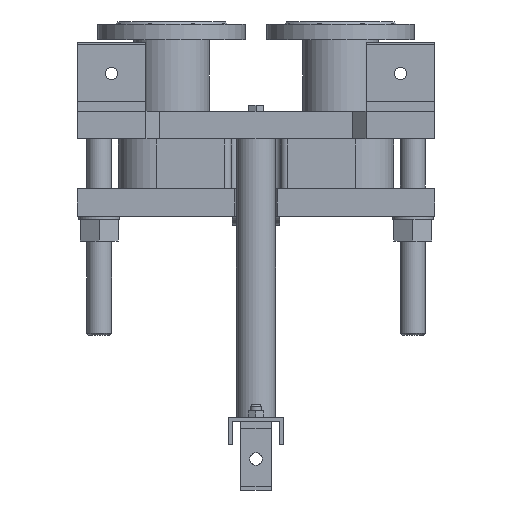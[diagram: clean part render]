
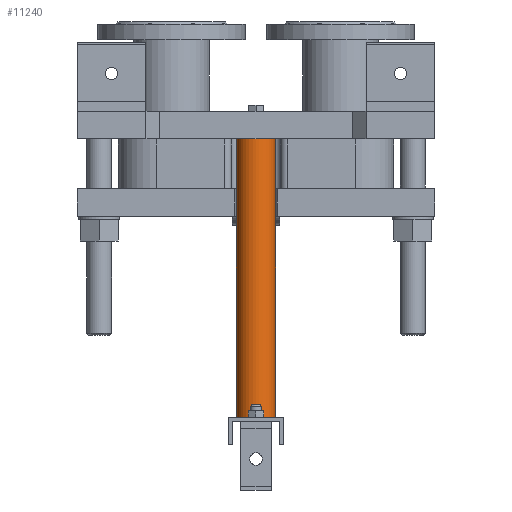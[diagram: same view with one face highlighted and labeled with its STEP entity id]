
A CAD part, front view. The second image highlights one B-rep face of the part: STEP entity #11240.
In plain terms, the highlighted cylindrical face has radius 28.5 mm (diameter 57 mm), a full revolution.
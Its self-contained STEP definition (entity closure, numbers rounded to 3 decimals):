
#781=LINE('',#22043,#1754);
#1754=VECTOR('',#14569,28.5);
#2333=CYLINDRICAL_SURFACE('',#12263,28.5);
#2995=FACE_OUTER_BOUND('',#3777,.T.);
#3777=EDGE_LOOP('',(#9013,#9014,#9015,#9016));
#4462=CIRCLE('',#12264,28.5);
#4463=CIRCLE('',#12265,28.5);
#5286=VERTEX_POINT('',#22040);
#5287=VERTEX_POINT('',#22042);
#6596=EDGE_CURVE('',#5286,#5286,#4462,.T.);
#6597=EDGE_CURVE('',#5286,#5287,#781,.T.);
#6598=EDGE_CURVE('',#5287,#5287,#4463,.T.);
#9013=ORIENTED_EDGE('',*,*,#6596,.F.);
#9014=ORIENTED_EDGE('',*,*,#6597,.T.);
#9015=ORIENTED_EDGE('',*,*,#6598,.T.);
#9016=ORIENTED_EDGE('',*,*,#6597,.F.);
#11240=ADVANCED_FACE('',(#2995),#2333,.T.);
#12263=AXIS2_PLACEMENT_3D('',#22039,#14565,#14566);
#12264=AXIS2_PLACEMENT_3D('',#22041,#14567,#14568);
#12265=AXIS2_PLACEMENT_3D('',#22044,#14570,#14571);
#14565=DIRECTION('center_axis',(0.,0.,
-1.));
#14566=DIRECTION('ref_axis',(-1.,0.,0.));
#14567=DIRECTION('center_axis',(0.,0.,
-1.));
#14568=DIRECTION('ref_axis',(-1.,0.,0.));
#14569=DIRECTION('',(0.,0.,1.));
#14570=DIRECTION('center_axis',(0.,0.,
-1.));
#14571=DIRECTION('ref_axis',(-1.,0.,0.));
#22039=CARTESIAN_POINT('Origin',(0.,215.,0.));
#22040=CARTESIAN_POINT('',(28.5,215.,-404.5));
#22041=CARTESIAN_POINT('Origin',(0.,215.,-404.5));
#22042=CARTESIAN_POINT('',(28.5,215.,0.));
#22043=CARTESIAN_POINT('',(28.5,215.,0.));
#22044=CARTESIAN_POINT('Origin',(0.,215.,0.));
